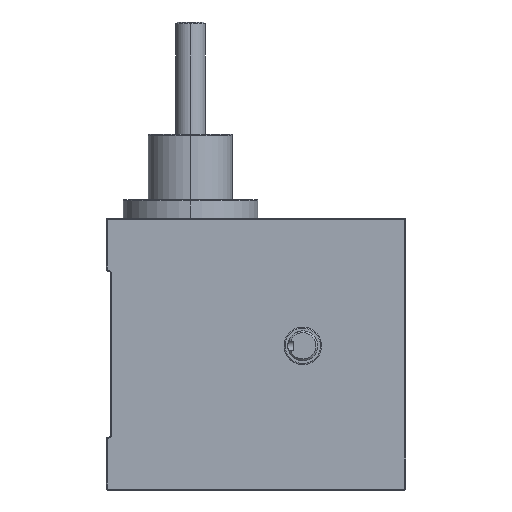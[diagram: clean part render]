
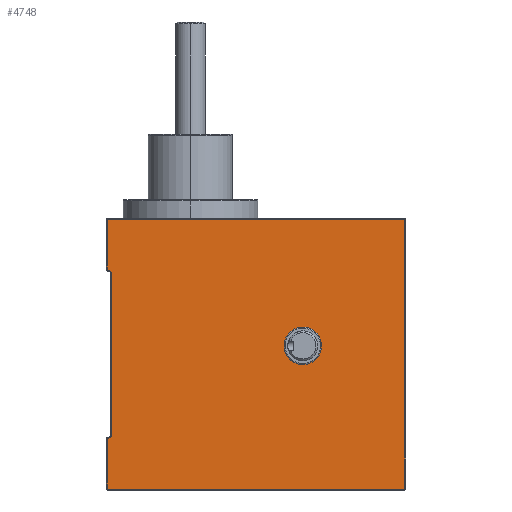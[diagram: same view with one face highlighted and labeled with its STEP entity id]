
A CAD part, left-side view. The second image highlights one B-rep face of the part: STEP entity #4748.
In plain terms, the highlighted planar face has unit normal (-1, 0, 0).
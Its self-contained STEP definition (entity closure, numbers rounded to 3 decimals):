
#1126=CARTESIAN_POINT('',(-48.,-25.,-68.));
#1127=DIRECTION('',(-1.,0.,0.));
#1128=DIRECTION('',(0.,0.,1.));
#1129=AXIS2_PLACEMENT_3D('',#1126,#1127,#1128);
#1131=CARTESIAN_POINT('',(-48.,-25.,-68.));
#1132=DIRECTION('',(-1.,0.,0.));
#1133=DIRECTION('',(0.,0.,-1.));
#1134=AXIS2_PLACEMENT_3D('',#1131,#1132,#1133);
#1136=DIRECTION('',(0.,0.,-1.));
#1137=VECTOR('',#1136,27.);
#1138=CARTESIAN_POINT('',(-48.,79.5,-117.5));
#1139=LINE('',#1138,#1137);
#1140=CARTESIAN_POINT('',(-48.,79.5,-115.));
#1141=DIRECTION('',(1.,0.,0.));
#1142=DIRECTION('',(0.,-1.,0.));
#1143=AXIS2_PLACEMENT_3D('',#1140,#1141,#1142);
#1145=DIRECTION('',(0.,0.,-1.));
#1146=VECTOR('',#1145,85.);
#1147=CARTESIAN_POINT('',(-48.,77.,-30.));
#1148=LINE('',#1147,#1146);
#1149=CARTESIAN_POINT('',(-48.,79.5,-30.));
#1150=DIRECTION('',(1.,0.,0.));
#1151=DIRECTION('',(0.,0.,1.));
#1152=AXIS2_PLACEMENT_3D('',#1149,#1150,#1151);
#1154=DIRECTION('',(0.,0.,-1.));
#1155=VECTOR('',#1154,27.);
#1156=CARTESIAN_POINT('',(-48.,79.5,-0.5));
#1157=LINE('',#1156,#1155);
#1158=DIRECTION('',(0.,-1.,0.));
#1159=VECTOR('',#1158,159.);
#1160=CARTESIAN_POINT('',(-48.,79.5,-0.5));
#1161=LINE('',#1160,#1159);
#1162=DIRECTION('',(0.,0.,-1.));
#1163=VECTOR('',#1162,144.);
#1164=CARTESIAN_POINT('',(-48.,-79.5,-0.5));
#1165=LINE('',#1164,#1163);
#1166=DIRECTION('',(0.,1.,0.));
#1167=VECTOR('',#1166,159.);
#1168=CARTESIAN_POINT('',(-48.,-79.5,-144.5));
#1169=LINE('',#1168,#1167);
#2475=CARTESIAN_POINT('',(-48.,-25.,-58.));
#2476=CARTESIAN_POINT('',(-48.,-25.,-78.));
#2477=VERTEX_POINT('',#2475);
#2478=VERTEX_POINT('',#2476);
#2899=CARTESIAN_POINT('',(-48.,79.5,-117.5));
#2900=CARTESIAN_POINT('',(-48.,79.5,-144.5));
#2901=VERTEX_POINT('',#2899);
#2902=VERTEX_POINT('',#2900);
#2905=CARTESIAN_POINT('',(-48.,-79.5,-144.5));
#2906=VERTEX_POINT('',#2905);
#2971=CARTESIAN_POINT('',(-48.,-79.5,-0.5));
#2972=VERTEX_POINT('',#2971);
#2973=CARTESIAN_POINT('',(-48.,79.5,-0.5));
#2974=VERTEX_POINT('',#2973);
#2985=CARTESIAN_POINT('',(-48.,79.5,-27.5));
#2986=VERTEX_POINT('',#2985);
#2993=CARTESIAN_POINT('',(-48.,77.,-30.));
#2994=VERTEX_POINT('',#2993);
#2997=CARTESIAN_POINT('',(-48.,77.,-115.));
#2998=VERTEX_POINT('',#2997);
#4720=CARTESIAN_POINT('',(-48.,80.,0.));
#4721=DIRECTION('',(-1.,0.,0.));
#4722=DIRECTION('',(0.,-1.,0.));
#4723=AXIS2_PLACEMENT_3D('',#4720,#4721,#4722);
#4724=PLANE('',#4723);
#4726=ORIENTED_EDGE('',*,*,#4725,.F.);
#4728=ORIENTED_EDGE('',*,*,#4727,.F.);
#4730=ORIENTED_EDGE('',*,*,#4729,.F.);
#4732=ORIENTED_EDGE('',*,*,#4731,.F.);
#4733=ORIENTED_EDGE('',*,*,#4713,.F.);
#4735=ORIENTED_EDGE('',*,*,#4734,.T.);
#4737=ORIENTED_EDGE('',*,*,#4736,.T.);
#4739=ORIENTED_EDGE('',*,*,#4738,.T.);
#4740=EDGE_LOOP('',(#4726,#4728,#4730,#4732,#4733,#4735,#4737,#4739));
#4741=FACE_OUTER_BOUND('',#4740,.F.);
#4743=ORIENTED_EDGE('',*,*,#4742,.T.);
#4745=ORIENTED_EDGE('',*,*,#4744,.T.);
#4746=EDGE_LOOP('',(#4743,#4745));
#4747=FACE_BOUND('',#4746,.F.);
#1130=CIRCLE('',#1129,10.);
#1135=CIRCLE('',#1134,10.);
#1144=CIRCLE('',#1143,2.5);
#1153=CIRCLE('',#1152,2.5);
#4713=EDGE_CURVE('',#2974,#2986,#1157,.T.);
#4725=EDGE_CURVE('',#2901,#2902,#1139,.T.);
#4727=EDGE_CURVE('',#2998,#2901,#1144,.T.);
#4729=EDGE_CURVE('',#2994,#2998,#1148,.T.);
#4731=EDGE_CURVE('',#2986,#2994,#1153,.T.);
#4734=EDGE_CURVE('',#2974,#2972,#1161,.T.);
#4736=EDGE_CURVE('',#2972,#2906,#1165,.T.);
#4738=EDGE_CURVE('',#2906,#2902,#1169,.T.);
#4742=EDGE_CURVE('',#2477,#2478,#1130,.T.);
#4744=EDGE_CURVE('',#2478,#2477,#1135,.T.);
#4748=ADVANCED_FACE('',(#4741,#4747),#4724,.T.);
